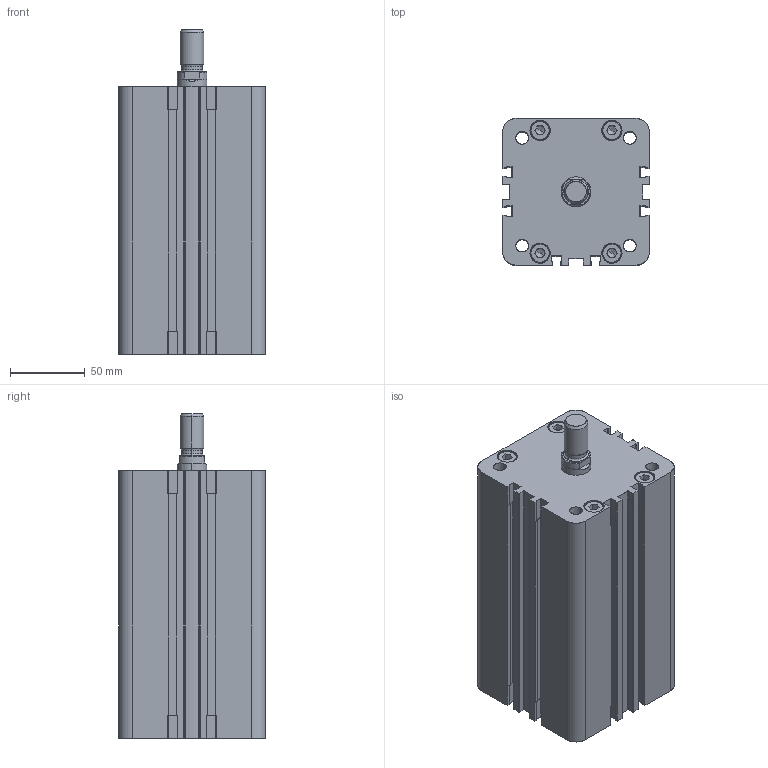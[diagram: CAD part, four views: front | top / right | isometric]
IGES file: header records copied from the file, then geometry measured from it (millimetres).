
Start section: SolidWorks IGES file using analytic representation for surfaces
Global section: file name: K:\Disegni Esecutivi\Cilindri\2_DISEGNI_cilindri_in_produzione\CILINDRO_ISO_21287\seconda versione cilindro 21287\2_CIL80\VERSIONE 80\COMPLESSIVI W80\W80_PIENI\WFM80\WFM0800125A.igs; native system: SolidWorks 2011; preprocessor: SolidWorks 2011; author: Cad01; date: 120803.172254; units: millimetre
Bounding box: 98 x 98 x 217 mm (x, y, z)
Surface area: 133691.8 mm2 (no closed solid volume)
Topology: 0 solids, 0 shells, 561 faces, 5701 edges, 5685 vertices
Faces by surface type: bspline 300, revolution 261
